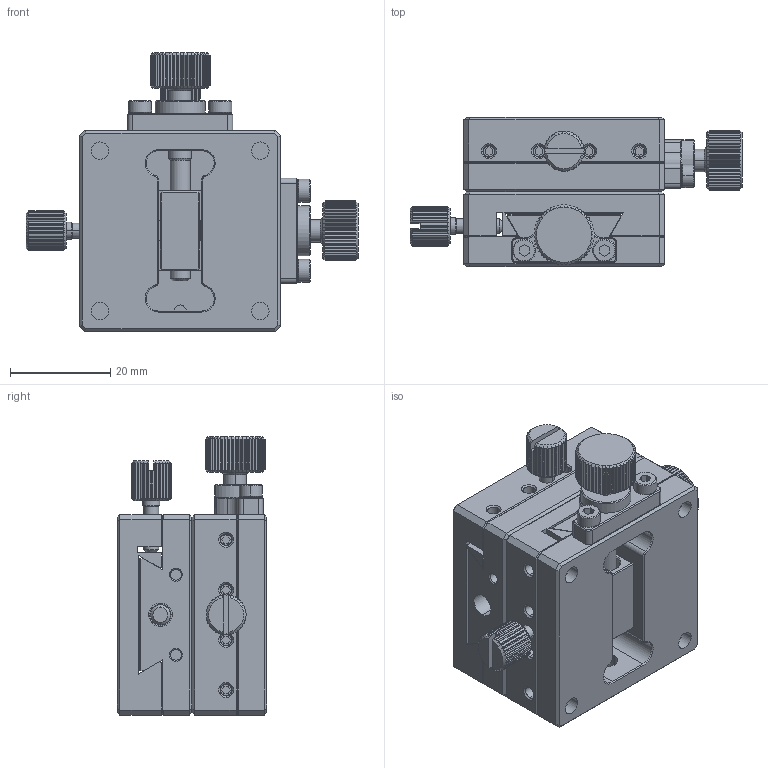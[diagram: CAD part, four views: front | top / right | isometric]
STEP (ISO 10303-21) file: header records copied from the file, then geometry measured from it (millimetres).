
FILE_DESCRIPTION((''),'2;1');
FILE_NAME('ASSY-40-XY-L_ASM','2021-06-28T16:58:42',('windows10'),(''),'CREO PARAMETRIC BY PTC INC, 2018260','CREO PARAMETRIC BY PTC INC, 2018260','');
FILE_SCHEMA(('CONFIG_CONTROL_DESIGN'));
Length unit declared in the file: millimetre
Products named in the file (14): BOTTOM-40-40-15; TOP-40-40-15; COUPLER-4060; SCREW-M2D5-4; HANDLE-12-M4-45D5; HOLDER-HANDLE; E-RING-3-7; ASSY-HANDLE-12-M4-45D5_ASM; 2D5-8; 3-5-NOHEAD; BALL-2D381; STOPPER-8-M3-16; ASSY-40-L_ASM; ASSY-40-XY-L_ASM
Assembly tree (19 placements, depth 4):
  ASSY-40-XY-L_ASM
    ASSY-40-L_ASM  x2
      BOTTOM-40-40-15
      TOP-40-40-15
      COUPLER-4060
      SCREW-M2D5-4
      ASSY-HANDLE-12-M4-45D5_ASM
        HANDLE-12-M4-45D5
        HOLDER-HANDLE
        E-RING-3-7
      2D5-8
      3-5-NOHEAD
      BALL-2D381
      STOPPER-8-M3-16
Bounding box: 66.25 x 29.8 x 55.5 mm (x, y, z)
Volume: 43983.6 mm3; surface area: 31157.6 mm2
Topology: 32 solids, 32 shells, 1646 faces, 4166 edges, 2624 vertices
Faces by surface type: plane 826, cylinder 506, cone 286, torus 16, sphere 12
Entity records: 23363 total; most frequent: CARTESIAN_POINT 5288, ORIENTED_EDGE 3754, DIRECTION 3710, EDGE_CURVE 1877, AXIS2_PLACEMENT_3D 1396, VERTEX_POINT 1186, VECTOR 918, LINE 918
